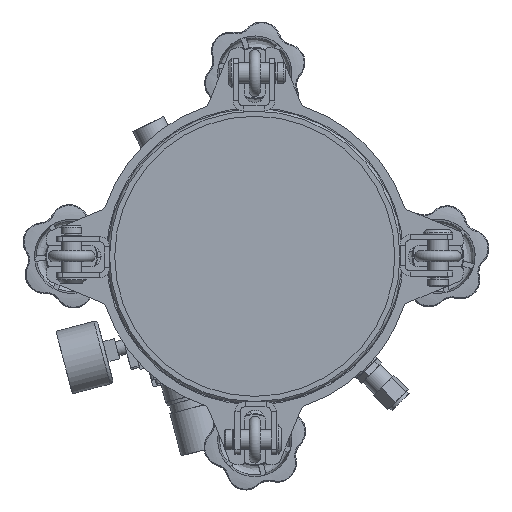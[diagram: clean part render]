
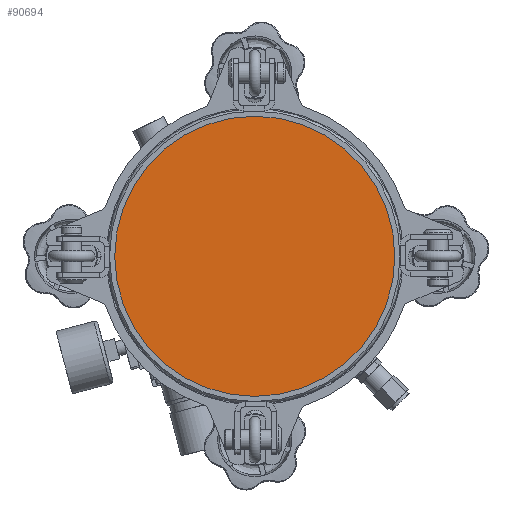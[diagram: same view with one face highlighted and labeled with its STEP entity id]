
A CAD part, front view. The second image highlights one B-rep face of the part: STEP entity #90694.
In plain terms, the highlighted planar face has unit normal (0, -1, 0).
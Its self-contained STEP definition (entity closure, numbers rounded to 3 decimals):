
#696 = CIRCLE ( 'NONE', #59380, 81.15 ) ;
#4966 = PLANE ( 'NONE',  #62567 ) ;
#25872 = CARTESIAN_POINT ( 'NONE',  ( 0., 3., -81.15 ) ) ;
#26347 = ORIENTED_EDGE ( 'NONE', *, *, #56995, .T. ) ;
#33695 = DIRECTION ( 'NONE',  ( 0., -1., 0. ) ) ;
#42154 = DIRECTION ( 'NONE',  ( 0., 0., -1. ) ) ;
#49226 = CARTESIAN_POINT ( 'NONE',  ( 0., 3., 0. ) ) ;
#56995 = EDGE_CURVE ( 'NONE', #69217, #69217, #696, .T. ) ;
#59380 = AXIS2_PLACEMENT_3D ( 'NONE', #62056, #90772, #77971 ) ;
#62056 = CARTESIAN_POINT ( 'NONE',  ( 0., 3., 0. ) ) ;
#62567 = AXIS2_PLACEMENT_3D ( 'NONE', #49226, #33695, #42154 ) ;
#69217 = VERTEX_POINT ( 'NONE', #25872 ) ;
#77971 = DIRECTION ( 'NONE',  ( 0., 0., -1. ) ) ;
#83651 = FACE_OUTER_BOUND ( 'NONE', #89330, .T. ) ;
#89330 = EDGE_LOOP ( 'NONE', ( #26347 ) ) ;
#90694 = ADVANCED_FACE ( 'NONE', ( #83651 ), #4966, .T. ) ;
#90772 = DIRECTION ( 'NONE',  ( 0., -1., 0. ) ) ;
